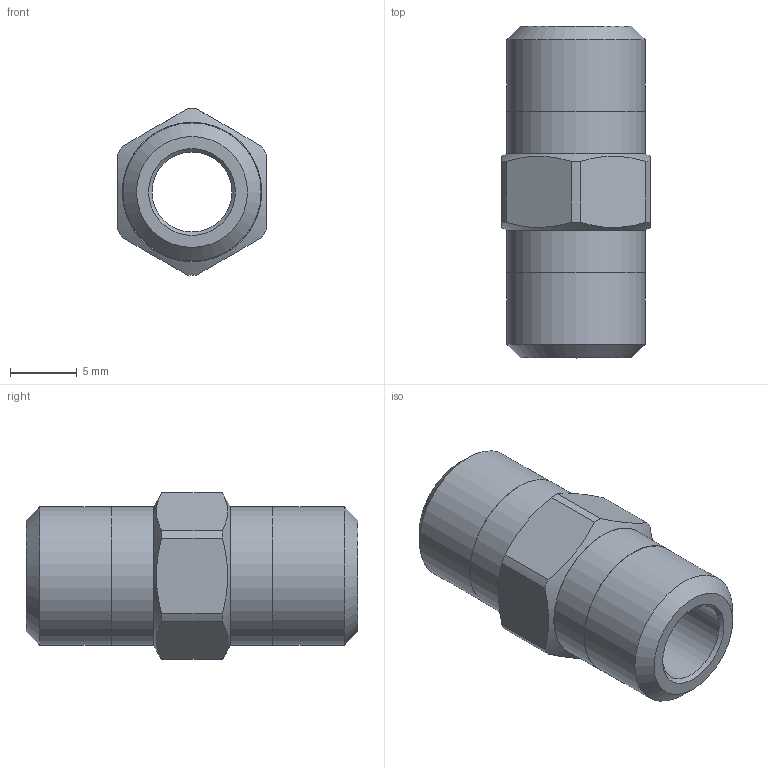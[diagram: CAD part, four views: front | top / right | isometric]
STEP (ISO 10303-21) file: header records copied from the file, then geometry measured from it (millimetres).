
FILE_DESCRIPTION(/* description */ (''),/* implementation_level */ '2;1');
FILE_NAME(/* name */ 'C:/Users/drich/Desktop/HN-18 v1.step',/* time_stamp */ '2020-02-09T10:56:53-06:00',/* author */ (''),/* organization */ (''),/* preprocessor_version */ 'ST-DEVELOPER v18',/* originating_system */ 'Autodesk Translation Framework v8.12.0.6',/* authorisation */ '');
FILE_SCHEMA (('AUTOMOTIVE_DESIGN { 1 0 10303 214 3 1 1 }'));
Length unit declared in the file: inch
Products named in the file (1): HN-18
Bounding box: 11.1 x 24.77 x 12.45 mm (x, y, z)
Volume: 1469.8 mm3; surface area: 1388.3 mm2
Topology: 1 solids, 1 shells, 29 faces, 75 edges, 52 vertices
Faces by surface type: plane 12, cylinder 11, cone 6
Full cylindrical faces by diameter (mm): 5.969 x1, 10.312 x2, 10.363 x2
Entity records: 951 total; most frequent: CARTESIAN_POINT 181, DIRECTION 163, ORIENTED_EDGE 150, EDGE_CURVE 75, AXIS2_PLACEMENT_3D 70, VERTEX_POINT 52, CIRCLE 40, EDGE_LOOP 35
